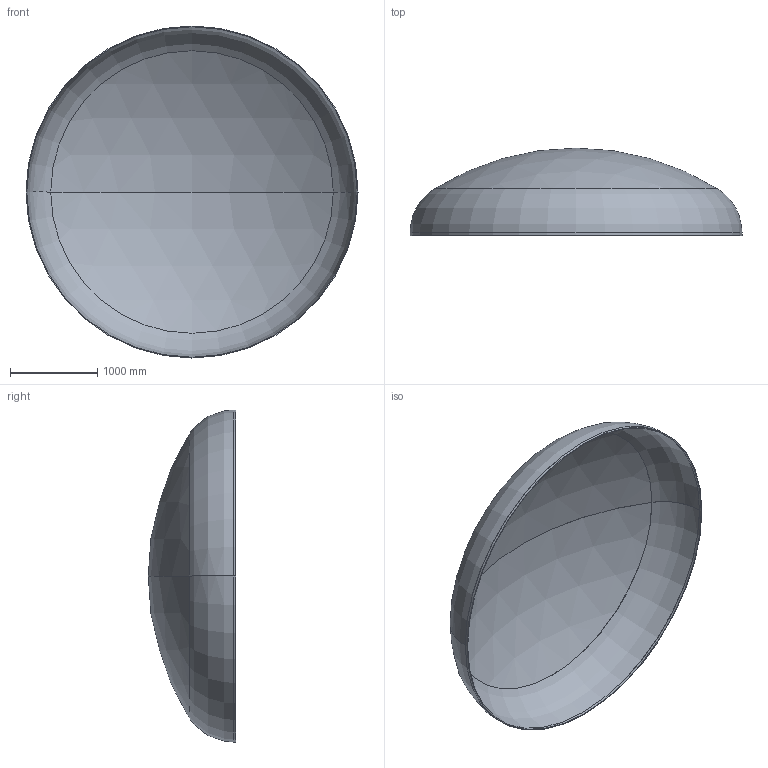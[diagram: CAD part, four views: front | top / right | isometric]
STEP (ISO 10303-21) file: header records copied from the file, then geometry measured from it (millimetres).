
FILE_DESCRIPTION (( 'STEP AP203' ), '1' );
FILE_NAME ('DIN 28013 Korbbogenform_-_Boden DIN 28013 - 3800 x 30 - I - s=9.step', '2016-07-01T21:00:51', ( '' ), ( '' ), 'SwSTEP 2.0', 'SolidWorks 2013', '' );
FILE_SCHEMA (( 'CONFIG_CONTROL_DESIGN' ));
Length unit declared in the file: millimetre
Products named in the file (1): DIN 28013 Korbbogenform_-_Boden DIN 28013 - 3800 x 30 - I - s=9
Bounding box: 3800 x 1000.2 x 3800 mm (x, y, z)
Volume: 144142030.7 mm3; surface area: 32138906.9 mm2
Topology: 1 solids, 1 shells, 13 faces, 24 edges, 14 vertices
Faces by surface type: torus 4, cylinder 4, sphere 4, plane 1
Entity records: 407 total; most frequent: DIRECTION 72, CARTESIAN_POINT 52, ORIENTED_EDGE 48, AXIS2_PLACEMENT_3D 34, EDGE_CURVE 24, CIRCLE 20, EDGE_LOOP 14, VERTEX_POINT 14
